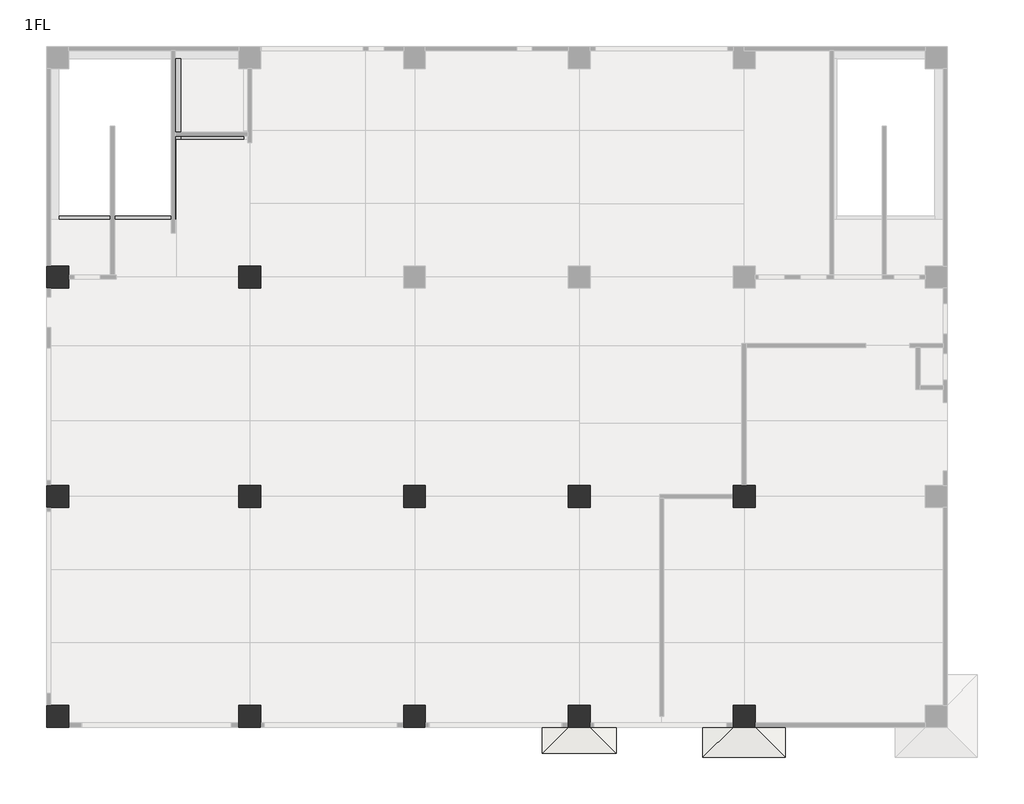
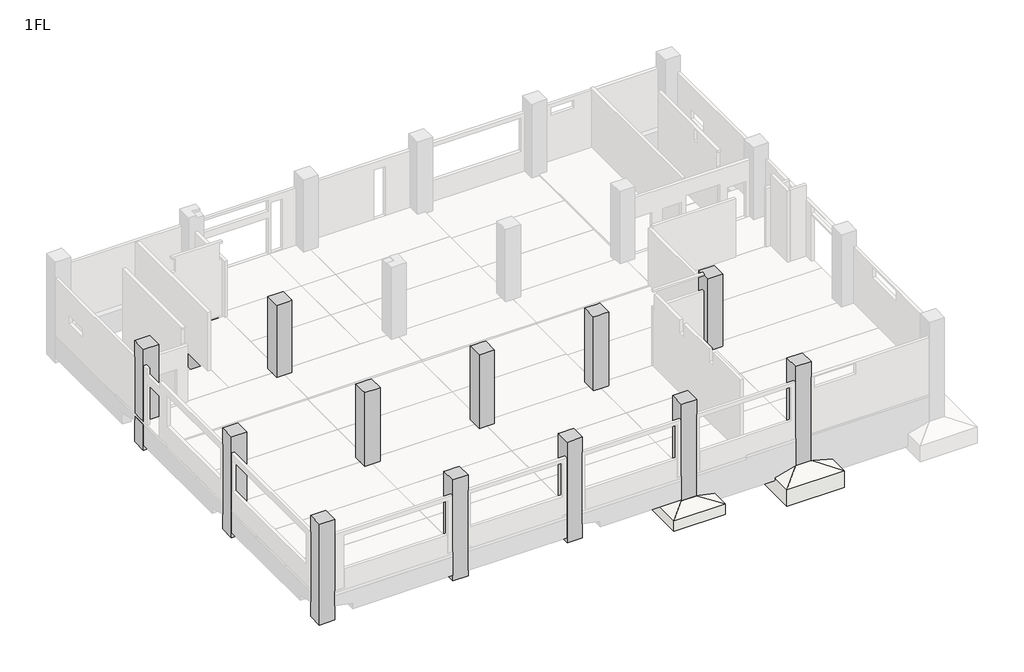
# One storey, part 3 of 4: 37 beams, 12 columns, 2 slabs.
"""IFC4 building model written with IfcOpenShell, lengths in millimetres."""

from ifc_helpers import new_model, si_unit, frame, origin, place, context, project, spatial, polyline, outline, extrude, faceted_brep, element, save

model = new_model("IFC4")

# Units and contexts
model_context = context("Model", 3, world=origin())
ifc_project = project(units=[si_unit("LENGTHUNIT", "METRE", prefix="MILLI")], contexts=[model_context])

# Site, building, storey
site = spatial("IfcSite", under=ifc_project)
building = spatial("IfcBuilding", under=site)
storey = spatial("IfcBuildingStorey", under=building, Name="1FL", Elevation=0.0)

# Beams
placement = place(None, origin())
element("IfcBeam", 1, ObjectType="RC_B : B1", at=placement, inside=storey, context=model_context, shape_type="SweptSolid", body=[
    extrude(outline(polyline([(50.0, 2485.0), (50.0, 2835.0), (6775.0, 2835.0), (6775.0, 2485.0), (50.0, 2485.0)])), frame((0.0, 0.0, -850.0), z_axis=(0.0, 0.0, 1.0), x_axis=(1.0, 0.0, 0.0)), (0.0, 0.0, 1.0), 600.0),
])
element("IfcBeam", 2, ObjectType="RC_B : B1", at=placement, inside=storey, context=model_context, shape_type="SweptSolid", body=[
    extrude(outline(polyline([(50.0, 5155.0), (50.0, 5505.0), (6775.0, 5505.0), (6775.0, 5155.0), (50.0, 5155.0)])), frame((0.0, 0.0, -850.0), z_axis=(0.0, 0.0, 1.0), x_axis=(1.0, 0.0, 0.0)), (0.0, 0.0, 1.0), 600.0),
])
element("IfcBeam", 3, ObjectType="RC_B : B1", at=placement, inside=storey, context=model_context, shape_type="SweptSolid", body=[
    extrude(outline(polyline([(7225.0, 2485.0), (7225.0, 2835.0), (12775.0, 2835.0), (12775.0, 2485.0), (7225.0, 2485.0)])), frame((0.0, 0.0, -850.0), z_axis=(0.0, 0.0, 1.0), x_axis=(1.0, 0.0, 0.0)), (0.0, 0.0, 1.0), 600.0),
])
element("IfcBeam", 4, ObjectType="RC_B : B1", at=placement, inside=storey, context=model_context, shape_type="SweptSolid", body=[
    extrude(outline(polyline([(7225.0, 5155.0), (7225.0, 5505.0), (12775.0, 5505.0), (12775.0, 5155.0), (7225.0, 5155.0)])), frame((0.0, 0.0, -850.0), z_axis=(0.0, 0.0, 1.0), x_axis=(1.0, 0.0, 0.0)), (0.0, 0.0, 1.0), 600.0),
])
element("IfcBeam", 5, ObjectType="RC_B : B1", at=placement, inside=storey, context=model_context, shape_type="SweptSolid", body=[
    extrude(outline(polyline([(13225.0, 2485.0), (13225.0, 2835.0), (18775.0, 2835.0), (18775.0, 2485.0), (13225.0, 2485.0)])), frame((0.0, 0.0, -850.0), z_axis=(0.0, 0.0, 1.0), x_axis=(1.0, 0.0, 0.0)), (0.0, 0.0, 1.0), 600.0),
])
element("IfcBeam", 6, ObjectType="RC_B : B1", at=placement, inside=storey, context=model_context, shape_type="SweptSolid", body=[
    extrude(outline(polyline([(13225.0, 5155.0), (13225.0, 5505.0), (18775.0, 5505.0), (18775.0, 5155.0), (13225.0, 5155.0)])), frame((0.0, 0.0, -850.0), z_axis=(0.0, 0.0, 1.0), x_axis=(1.0, 0.0, 0.0)), (0.0, 0.0, 1.0), 600.0),
])
element("IfcBeam", 7, ObjectType="RC_B : B1", at=placement, inside=storey, context=model_context, shape_type="SweptSolid", body=[
    extrude(outline(polyline([(13675.0, -850.0), (13325.0, -850.0), (13325.0, -250.0), (13496.0, -250.0), (13496.0, -160.0), (13675.0, -160.0), (13675.0, -850.0)])), frame((50.0, 0.0, 0.0), z_axis=(1.0, 0.0, 0.0), x_axis=(0.0, 1.0, 0.0)), (0.0, 0.0, 1.0), 6725.0),
])
element("IfcBeam", 8, ObjectType="RC_B : B1", at=placement, inside=storey, context=model_context, shape_type="SweptSolid", body=[
    extrude(outline(polyline([(13675.0, -850.0), (13325.0, -850.0), (13325.0, -250.0), (13496.0, -250.0), (13496.0, -160.0), (13675.0, -160.0), (13675.0, -850.0)])), frame((7225.0, 0.0, 0.0), z_axis=(1.0, 0.0, 0.0), x_axis=(0.0, 1.0, 0.0)), (0.0, 0.0, 1.0), 5550.0),
])
element("IfcBeam", 9, ObjectType="RC_B : B1", at=placement, inside=storey, context=model_context, shape_type="SweptSolid", body=[
    extrude(outline(polyline([(13675.0, -850.0), (13325.0, -850.0), (13325.0, -250.0), (13496.0, -250.0), (13496.0, -160.0), (13675.0, -160.0), (13675.0, -850.0)])), frame((13225.0, 0.0, 0.0), z_axis=(1.0, 0.0, 0.0), x_axis=(0.0, 1.0, 0.0)), (0.0, 0.0, 1.0), 5550.0),
])
element("IfcBeam", 10, ObjectType="RC_B : B1", at=placement, inside=storey, context=model_context, shape_type="SweptSolid", body=[
    extrude(outline(polyline([(50.0, 10575.0), (50.0, 10925.0), (6775.0, 10925.0), (6775.0, 10575.0), (50.0, 10575.0)])), frame((0.0, 0.0, -850.0), z_axis=(0.0, 0.0, 1.0), x_axis=(1.0, 0.0, 0.0)), (0.0, 0.0, 1.0), 600.0),
])
element("IfcBeam", 11, ObjectType="RC_B : B1", at=placement, inside=storey, context=model_context, shape_type="SweptSolid", body=[
    extrude(outline(polyline([(7225.0, 10575.0), (7225.0, 10925.0), (12775.0, 10925.0), (12775.0, 10575.0), (7225.0, 10575.0)])), frame((0.0, 0.0, -850.0), z_axis=(0.0, 0.0, 1.0), x_axis=(1.0, 0.0, 0.0)), (0.0, 0.0, 1.0), 600.0),
])
element("IfcBeam", 12, ObjectType="RC_B : B1", at=placement, inside=storey, context=model_context, shape_type="SweptSolid", body=[
    extrude(outline(polyline([(13225.0, 10575.0), (13225.0, 10925.0), (18775.0, 10925.0), (18775.0, 10575.0), (13225.0, 10575.0)])), frame((0.0, 0.0, -850.0), z_axis=(0.0, 0.0, 1.0), x_axis=(1.0, 0.0, 0.0)), (0.0, 0.0, 1.0), 600.0),
])
element("IfcBeam", 13, ObjectType="RC_B : B2", at=placement, inside=storey, context=model_context, shape_type="SweptSolid", body=[
    extrude(outline(polyline([(-850.0, 19225.0), (-850.0, 24775.0), (-160.0, 24775.0), (-160.0, 22075.0), (-250.0, 22075.0), (-250.0, 19225.0), (-850.0, 19225.0)])), frame((0.0, 2485.0, 0.0), z_axis=(0.0, 1.0, 0.0), x_axis=(0.0, 0.0, 1.0)), (0.0, 0.0, 1.0), 350.0),
])
element("IfcBeam", 14, ObjectType="RC_B : B2", at=placement, inside=storey, context=model_context, shape_type="SweptSolid", body=[
    extrude(outline(polyline([(-850.0, 19225.0), (-850.0, 24775.0), (-160.0, 24775.0), (-160.0, 22075.0), (-250.0, 22075.0), (-250.0, 19225.0), (-850.0, 19225.0)])), frame((0.0, 5155.0, 0.0), z_axis=(0.0, 1.0, 0.0), x_axis=(0.0, 0.0, 1.0)), (0.0, 0.0, 1.0), 350.0),
])
element("IfcBeam", 15, ObjectType="RC_B : B2", at=placement, inside=storey, context=model_context, shape_type="SweptSolid", body=[
    extrude(outline(polyline([(19225.0, 10575.0), (19225.0, 10925.0), (24775.0, 10925.0), (24775.0, 10575.0), (19225.0, 10575.0)])), frame((0.0, 0.0, -850.0), z_axis=(0.0, 0.0, 1.0), x_axis=(1.0, 0.0, 0.0)), (0.0, 0.0, 1.0), 600.0),
])
element("IfcBeam", 16, ObjectType="RC_B : B2", at=placement, inside=storey, context=model_context, shape_type="SweptSolid", body=[
    extrude(outline(polyline([(13675.0, -850.0), (13325.0, -850.0), (13325.0, -250.0), (13500.0, -250.0), (13500.0, -160.0), (13675.0, -160.0), (13675.0, -850.0)])), frame((19225.0, 0.0, 0.0), z_axis=(1.0, 0.0, 0.0), x_axis=(0.0, 1.0, 0.0)), (0.0, 0.0, 1.0), 5550.0),
])
element("IfcBeam", 17, ObjectType="RC_B : B2", at=placement, inside=storey, context=model_context, shape_type="SweptSolid", body=[
    extrude(outline(polyline([(25225.0, 13325.0), (25225.0, 13675.0), (31950.0, 13675.0), (31950.0, 13325.0), (25225.0, 13325.0)])), frame((0.0, 0.0, -850.0), z_axis=(0.0, 0.0, 1.0), x_axis=(1.0, 0.0, 0.0)), (0.0, 0.0, 1.0), 690.0),
])
element("IfcBeam", 18, ObjectType="RC_B : B3", at=placement, inside=storey, context=model_context, shape_type="SweptSolid", body=[
    extrude(outline(polyline([(18225.0, -100.0), (18225.0, -700.0), (17975.0, -700.0), (17975.0, -160.0), (18100.0, -160.0), (18100.0, -100.0), (18225.0, -100.0)])), frame((50.0, 0.0, 0.0), z_axis=(1.0, 0.0, 0.0), x_axis=(0.0, 1.0, 0.0)), (0.0, 0.0, 1.0), 4094.0),
])
element("IfcBeam", 19, ObjectType="RC_B : B3", at=placement, inside=storey, context=model_context, shape_type="Brep", body=[
    faceted_brep([(6775.0, 21125.0, -100.0), (6775.0, 21125.0, -700.0), (4494.0, 21125.0, -700.0), (4494.0, 21125.0, -100.0), (6775.0, 20875.0, -700.0), (4494.0, 20875.0, -700.0), (6775.0, 20875.0, -100.0), (4494.0, 20875.0, -100.0), (4494.0, 20875.0, -160.0), (6775.0, 21000.0, -100.0)], [[[0, 1, 2, 3]], [[1, 4, 5, 2]], [[4, 6, 7, 8, 5]], [[6, 9, 0, 3, 7]], [[1, 0, 9, 6, 4]], [[3, 2, 5, 8, 7]]]),
])
element("IfcBeam", 20, ObjectType="RC_B : B4", at=placement, inside=storey, context=model_context, shape_type="Brep", body=[
    faceted_brep([(4144.0, 16225.0, -850.0), (4144.0, 16225.0, -100.0), (4144.0, 17600.0, -100.0), (4144.0, 18100.0, -100.0), (4144.0, 18225.0, -100.0), (4144.0, 23950.0, -100.0), (4144.0, 23950.0, -850.0), (4144.0, 20875.0, -850.0), (4494.0, 16225.0, -850.0), (4494.0, 23950.0, -850.0), (4494.0, 20875.0, -850.0), (4494.0, 16225.0, -100.0), (4494.0, 23950.0, -100.0), (4494.0, 21125.0, -100.0), (4494.0, 20875.0, -100.0)], [[[0, 1, 2, 3, 4, 5, 6, 7]], [[8, 0, 7, 6, 9, 10]], [[11, 8, 10, 9, 12, 13, 14]], [[1, 11, 14, 13, 12, 5, 4, 3, 2]], [[1, 0, 8, 11]], [[6, 5, 12, 9]]]),
])
element("IfcBeam", 21, ObjectType="RC_B : B6", at=placement, inside=storey, context=model_context, shape_type="SweptSolid", body=[
    extrude(outline(polyline([(25225.0, 2485.0), (25225.0, 2835.0), (31950.0, 2835.0), (31950.0, 2485.0), (25225.0, 2485.0)])), frame((0.0, 0.0, -850.0), z_axis=(0.0, 0.0, 1.0), x_axis=(1.0, 0.0, 0.0)), (0.0, 0.0, 1.0), 690.0),
])
element("IfcBeam", 22, ObjectType="RC_B : B6", at=placement, inside=storey, context=model_context, shape_type="SweptSolid", body=[
    extrude(outline(polyline([(25225.0, 5155.0), (25225.0, 5505.0), (31950.0, 5505.0), (31950.0, 5155.0), (25225.0, 5155.0)])), frame((0.0, 0.0, -850.0), z_axis=(0.0, 0.0, 1.0), x_axis=(1.0, 0.0, 0.0)), (0.0, 0.0, 1.0), 690.0),
])
element("IfcBeam", 23, ObjectType="RC_B : B6", at=placement, inside=storey, context=model_context, shape_type="SweptSolid", body=[
    extrude(outline(polyline([(25225.0, 10575.0), (25225.0, 10925.0), (31950.0, 10925.0), (31950.0, 10575.0), (25225.0, 10575.0)])), frame((0.0, 0.0, -850.0), z_axis=(0.0, 0.0, 1.0), x_axis=(1.0, 0.0, 0.0)), (0.0, 0.0, 1.0), 690.0),
])
element("IfcBeam", 24, ObjectType="RC_B : FG12", at=placement, inside=storey, context=model_context, shape_type="Brep", body=[
    faceted_brep([(6775.0, 400.0, -250.0), (6775.0, 2485.0, -250.0), (6775.0, 2835.0, -250.0), (6775.0, 5155.0, -250.0), (6775.0, 5505.0, -250.0), (6775.0, 7600.0, -250.0), (6775.0, 7600.0, -1300.0), (6775.0, 1350.0, -1300.0), (6775.0, 1350.0, -1000.0), (6775.0, 400.0, -800.0), (7225.0, 7600.0, -1300.0), (7225.0, 1350.0, -1300.0), (7225.0, 7600.0, -250.0), (7225.0, 5505.0, -250.0), (7225.0, 5155.0, -250.0), (7225.0, 2835.0, -250.0), (7225.0, 2485.0, -250.0), (7225.0, 400.0, -250.0), (7225.0, 400.0, -800.0), (7225.0, 1350.0, -1000.0), (7000.0, 400.0, -250.0), (7000.0, 7600.0, -250.0)], [[[0, 1, 2, 3, 4, 5, 6, 7, 8, 9]], [[6, 10, 11, 7]], [[12, 13, 14, 15, 16, 17, 18, 19, 11, 10]], [[17, 20, 0, 9, 18]], [[5, 21, 12, 10, 6]], [[5, 4, 3, 2, 1, 0, 20, 17, 16, 15, 14, 13, 12, 21]], [[19, 8, 7, 11]], [[8, 19, 18, 9]]]),
])
element("IfcBeam", 25, ObjectType="RC_B : FG12", at=placement, inside=storey, context=model_context, shape_type="Brep", body=[
    faceted_brep([(6775.0, 8400.0, -250.0), (6775.0, 10575.0, -250.0), (6775.0, 10925.0, -250.0), (6775.0, 13325.0, -250.0), (6775.0, 13496.0, -250.0), (6775.0, 13496.0, -160.0), (6775.0, 13675.0, -160.0), (6775.0, 15600.0, -160.0), (6775.0, 15600.0, -1300.0), (6775.0, 9650.0, -1300.0), (6775.0, 9650.0, -700.0), (6775.0, 8400.0, -400.0), (7225.0, 15600.0, -1300.0), (7225.0, 9650.0, -1300.0), (7225.0, 13496.0, -250.0), (7225.0, 13325.0, -250.0), (7225.0, 10925.0, -250.0), (7225.0, 10575.0, -250.0), (7225.0, 8400.0, -250.0), (7225.0, 8400.0, -400.0), (7225.0, 9650.0, -700.0), (7225.0, 15600.0, -160.0), (7225.0, 13675.0, -160.0), (7225.0, 13496.0, -160.0), (7000.0, 8400.0, -250.0), (7000.0, 13496.0, -250.0)], [[[0, 1, 2, 3, 4, 5, 6, 7, 8, 9, 10, 11]], [[8, 12, 13, 9]], [[14, 15, 16, 17, 18, 19, 20, 13, 12, 21, 22, 23]], [[18, 24, 0, 11, 19]], [[7, 21, 12, 8]], [[4, 3, 2, 1, 0, 24, 18, 17, 16, 15, 14, 25]], [[4, 25, 14, 23, 5]], [[7, 6, 5, 23, 22, 21]], [[20, 10, 9, 13]], [[10, 20, 19, 11]]]),
])
element("IfcBeam", 26, ObjectType="RC_B : FG12", at=placement, inside=storey, context=model_context, shape_type="Brep", body=[
    faceted_brep([(12775.0, 400.0, -250.0), (12775.0, 2485.0, -250.0), (12775.0, 2835.0, -250.0), (12775.0, 5155.0, -250.0), (12775.0, 5505.0, -250.0), (12775.0, 7600.0, -250.0), (12775.0, 7600.0, -1300.0), (12775.0, 1350.0, -1300.0), (12775.0, 1350.0, -1000.0), (12775.0, 400.0, -800.0), (13225.0, 7600.0, -1300.0), (13225.0, 1350.0, -1300.0), (13225.0, 7600.0, -250.0), (13225.0, 5505.0, -250.0), (13225.0, 5155.0, -250.0), (13225.0, 2835.0, -250.0), (13225.0, 2485.0, -250.0), (13225.0, 400.0, -250.0), (13225.0, 400.0, -800.0), (13225.0, 1350.0, -1000.0), (13000.0, 400.0, -250.0), (13000.0, 7600.0, -250.0)], [[[0, 1, 2, 3, 4, 5, 6, 7, 8, 9]], [[6, 10, 11, 7]], [[12, 13, 14, 15, 16, 17, 18, 19, 11, 10]], [[17, 20, 0, 9, 18]], [[5, 21, 12, 10, 6]], [[5, 4, 3, 2, 1, 0, 20, 17, 16, 15, 14, 13, 12, 21]], [[19, 8, 7, 11]], [[8, 19, 18, 9]]]),
])
element("IfcBeam", 27, ObjectType="RC_B : FG12", at=placement, inside=storey, context=model_context, shape_type="Brep", body=[
    faceted_brep([(12775.0, 8400.0, -250.0), (12775.0, 10575.0, -250.0), (12775.0, 10925.0, -250.0), (12775.0, 13325.0, -250.0), (12775.0, 13496.0, -250.0), (12775.0, 13496.0, -160.0), (12775.0, 13675.0, -160.0), (12775.0, 15600.0, -160.0), (12775.0, 15600.0, -1300.0), (12775.0, 9650.0, -1300.0), (12775.0, 9650.0, -700.0), (12775.0, 8400.0, -400.0), (13225.0, 15600.0, -1300.0), (13225.0, 9650.0, -1300.0), (13225.0, 13496.0, -250.0), (13225.0, 13325.0, -250.0), (13225.0, 10925.0, -250.0), (13225.0, 10575.0, -250.0), (13225.0, 8400.0, -250.0), (13225.0, 8400.0, -400.0), (13225.0, 9650.0, -700.0), (13225.0, 15600.0, -160.0), (13225.0, 13675.0, -160.0), (13225.0, 13496.0, -160.0), (13000.0, 8400.0, -250.0), (13000.0, 13496.0, -250.0)], [[[0, 1, 2, 3, 4, 5, 6, 7, 8, 9, 10, 11]], [[8, 12, 13, 9]], [[14, 15, 16, 17, 18, 19, 20, 13, 12, 21, 22, 23]], [[18, 24, 0, 11, 19]], [[7, 21, 12, 8]], [[4, 3, 2, 1, 0, 24, 18, 17, 16, 15, 14, 25]], [[4, 25, 14, 23, 5]], [[7, 6, 5, 23, 22, 21]], [[20, 10, 9, 13]], [[10, 20, 19, 11]]]),
])
element("IfcBeam", 28, ObjectType="RC_B : FG12", at=placement, inside=storey, context=model_context, shape_type="Brep", body=[
    faceted_brep([(18775.0, 8400.0, -250.0), (18775.0, 10575.0, -250.0), (18775.0, 10925.0, -250.0), (18775.0, 13325.0, -250.0), (18775.0, 13496.0, -250.0), (18775.0, 13496.0, -160.0), (18775.0, 13675.0, -160.0), (18775.0, 15600.0, -160.0), (18775.0, 15600.0, -1300.0), (18775.0, 9650.0, -1300.0), (18775.0, 9650.0, -1250.0), (18775.0, 8400.0, -950.0), (19225.0, 15600.0, -1300.0), (19225.0, 9650.0, -1300.0), (19225.0, 13500.0, -250.0), (19225.0, 13325.0, -250.0), (19225.0, 10925.0, -250.0), (19225.0, 10575.0, -250.0), (19225.0, 8400.0, -250.0), (19225.0, 8400.0, -950.0), (19225.0, 9650.0, -1250.0), (19225.0, 15600.0, -160.0), (19225.0, 13675.0, -160.0), (19225.0, 13500.0, -160.0), (19000.0, 8400.0, -250.0), (19000.0, 15600.0, -160.0), (19000.0, 13496.0, -250.0), (19000.0, 13500.0, -250.0), (19000.0, 13496.0, -160.0), (19000.0, 13500.0, -160.0)], [[[0, 1, 2, 3, 4, 5, 6, 7, 8, 9, 10, 11]], [[8, 12, 13, 9]], [[14, 15, 16, 17, 18, 19, 20, 13, 12, 21, 22, 23]], [[18, 24, 0, 11, 19]], [[7, 25, 21, 12, 8]], [[26, 4, 3, 2, 1, 0, 24, 18, 17, 16, 15, 14, 27]], [[4, 26, 28, 5]], [[27, 14, 23, 29]], [[26, 27, 29, 28]], [[7, 6, 5, 28, 29, 23, 22, 21, 25]], [[20, 10, 9, 13]], [[10, 20, 19, 11]]]),
])
element("IfcBeam", 29, ObjectType="RC_B : FG13", at=placement, inside=storey, context=model_context, shape_type="Brep", body=[
    faceted_brep([(18775.0, 400.0, -250.0), (18775.0, 2485.0, -250.0), (18775.0, 2835.0, -250.0), (18775.0, 5155.0, -250.0), (18775.0, 5505.0, -250.0), (18775.0, 7600.0, -250.0), (18775.0, 7600.0, -1950.0), (18775.0, 1350.0, -1950.0), (18775.0, 1350.0, -1550.0), (18775.0, 400.0, -1350.0), (19000.0, 7600.0, -1950.0), (19000.0, 1350.0, -1950.0), (19225.0, 7600.0, -250.0), (19225.0, 5505.0, -250.0), (19225.0, 5155.0, -250.0), (19225.0, 2835.0, -250.0), (19225.0, 2485.0, -250.0), (19225.0, 400.0, -250.0), (19225.0, 400.0, -1350.0), (19225.0, 1350.0, -1550.0), (19225.0, 1350.0, -1750.0), (19225.0, 7600.0, -1750.0), (19000.0, 400.0, -250.0), (19000.0, 7600.0, -1750.0), (19000.0, 1350.0, -1750.0)], [[[0, 1, 2, 3, 4, 5, 6, 7, 8, 9]], [[6, 10, 11, 7]], [[12, 13, 14, 15, 16, 17, 18, 19, 20, 21]], [[17, 22, 0, 9, 18]], [[5, 12, 21, 23, 10, 6]], [[5, 4, 3, 2, 1, 0, 22, 17, 16, 15, 14, 13, 12]], [[23, 21, 20, 24]], [[10, 23, 24, 11]], [[19, 8, 7, 11, 24, 20]], [[8, 19, 18, 9]]]),
])
element("IfcBeam", 30, ObjectType="RC_B : FG14", at=placement, inside=storey, context=model_context, shape_type="Brep", body=[
    faceted_brep([(24775.0, 400.0, -160.0), (24775.0, 2485.0, -160.0), (24775.0, 2835.0, -160.0), (24775.0, 5155.0, -160.0), (24775.0, 5505.0, -160.0), (24775.0, 7600.0, -160.0), (24775.0, 7600.0, -2300.0), (24775.0, 1500.0, -2300.0), (24775.0, 1500.0, -1800.0), (24775.0, 400.0, -1500.0), (25225.0, 7600.0, -160.0), (25225.0, 5505.0, -160.0), (25225.0, 5155.0, -160.0), (25225.0, 2835.0, -160.0), (25225.0, 2485.0, -160.0), (25225.0, 400.0, -160.0), (25225.0, 400.0, -1500.0), (25225.0, 1500.0, -1800.0), (25225.0, 1500.0, -2300.0), (25225.0, 7600.0, -2300.0), (25000.0, 400.0, -160.0), (25000.0, 7600.0, -160.0)], [[[0, 1, 2, 3, 4, 5, 6, 7, 8, 9]], [[10, 11, 12, 13, 14, 15, 16, 17, 18, 19]], [[15, 20, 0, 9, 16]], [[5, 21, 10, 19, 6]], [[10, 21, 5, 4, 3, 2, 1, 0, 20, 15, 14, 13, 12, 11]], [[6, 19, 18, 7]], [[17, 8, 7, 18]], [[8, 17, 16, 9]]]),
])
element("IfcBeam", 31, ObjectType="RC_B : FG14", at=placement, inside=storey, context=model_context, shape_type="Brep", body=[
    faceted_brep([(24775.0, 15600.0, -2300.0), (24775.0, 9650.0, -2300.0), (24775.0, 9650.0, -1800.0), (24775.0, 8400.0, -1500.0), (24775.0, 8400.0, -250.0), (24775.0, 10575.0, -250.0), (24775.0, 10925.0, -250.0), (24775.0, 13325.0, -250.0), (24775.0, 13500.0, -250.0), (24775.0, 13500.0, -160.0), (24775.0, 13675.0, -160.0), (24775.0, 15600.0, -160.0), (25225.0, 15600.0, -160.0), (25225.0, 13675.0, -160.0), (25225.0, 13325.0, -160.0), (25225.0, 10925.0, -160.0), (25225.0, 10575.0, -160.0), (25225.0, 8400.0, -160.0), (25225.0, 8400.0, -1500.0), (25225.0, 9650.0, -1800.0), (25225.0, 9650.0, -2300.0), (25225.0, 15600.0, -2300.0), (25000.0, 8400.0, -160.0), (25000.0, 8400.0, -250.0), (25000.0, 15600.0, -160.0), (25000.0, 13500.0, -160.0), (25000.0, 13496.0, -160.0), (25000.0, 10748.0, -160.0), (25000.0, 13500.0, -250.0), (25000.0, 10667.0, -250.0)], [[[0, 1, 2, 3, 4, 5, 6, 7, 8, 9, 10, 11]], [[12, 13, 14, 15, 16, 17, 18, 19, 20, 21]], [[17, 22, 23, 4, 3, 18]], [[12, 21, 0, 11, 24]], [[25, 26, 27, 22, 17, 16, 15, 14, 13, 12, 24, 11, 10, 9]], [[0, 21, 20, 1]], [[19, 2, 1, 20]], [[2, 19, 18, 3]], [[28, 8, 7, 6, 5, 4, 23, 29]], [[28, 25, 9, 8]], [[28, 29, 23, 22, 27, 26, 25]]]),
])
element("IfcBeam", 32, ObjectType="RC_B : FG2", at=placement, inside=storey, context=model_context, shape_type="Brep", body=[
    faceted_brep([(6600.0, 8225.0, -1300.0), (400.0, 8225.0, -1300.0), (400.0, 8225.0, -250.0), (6600.0, 8225.0, -250.0), (400.0, 7775.0, -1300.0), (6600.0, 7775.0, -1300.0), (6600.0, 7775.0, -250.0), (400.0, 7775.0, -250.0), (400.0, 8000.0, -250.0), (6600.0, 8000.0, -250.0)], [[[0, 1, 2, 3]], [[4, 1, 0, 5]], [[6, 7, 4, 5]], [[7, 8, 2, 1, 4]], [[3, 9, 6, 5, 0]], [[7, 6, 9, 3, 2, 8]]]),
])
element("IfcBeam", 33, ObjectType="RC_B : FG2", at=placement, inside=storey, context=model_context, shape_type="Brep", body=[
    faceted_brep([(12600.0, 8225.0, -1300.0), (7400.0, 8225.0, -1300.0), (7400.0, 8225.0, -250.0), (12600.0, 8225.0, -250.0), (7400.0, 7775.0, -1300.0), (12600.0, 7775.0, -1300.0), (12600.0, 7775.0, -250.0), (7400.0, 7775.0, -250.0), (7400.0, 8000.0, -250.0), (12600.0, 8000.0, -250.0)], [[[0, 1, 2, 3]], [[4, 1, 0, 5]], [[6, 7, 4, 5]], [[7, 8, 2, 1, 4]], [[3, 9, 6, 5, 0]], [[7, 6, 9, 3, 2, 8]]]),
])
element("IfcBeam", 34, ObjectType="RC_B : FG2", at=placement, inside=storey, context=model_context, shape_type="Brep", body=[
    faceted_brep([(13400.0, 8225.0, -250.0), (18600.0, 8225.0, -250.0), (18600.0, 8225.0, -1300.0), (14650.0, 8225.0, -1300.0), (14650.0, 8225.0, -700.0), (13400.0, 8225.0, -400.0), (18600.0, 7775.0, -1300.0), (14650.0, 7775.0, -1300.0), (18600.0, 7775.0, -250.0), (13400.0, 7775.0, -250.0), (13400.0, 7775.0, -400.0), (14650.0, 7775.0, -700.0), (13400.0, 8000.0, -250.0), (18600.0, 8000.0, -250.0)], [[[0, 1, 2, 3, 4, 5]], [[2, 6, 7, 3]], [[8, 9, 10, 11, 7, 6]], [[9, 12, 0, 5, 10]], [[1, 13, 8, 6, 2]], [[9, 8, 13, 1, 0, 12]], [[11, 4, 3, 7]], [[4, 11, 10, 5]]]),
])
element("IfcBeam", 35, ObjectType="RC_B : FG2", at=placement, inside=storey, context=model_context, shape_type="Brep", body=[
    faceted_brep([(400.0, 16225.0, -160.0), (6600.0, 16225.0, -160.0), (6600.0, 16225.0, -1300.0), (1500.0, 16225.0, -1300.0), (1500.0, 16225.0, -700.0), (400.0, 16225.0, -400.0), (6600.0, 15775.0, -1300.0), (1500.0, 15775.0, -1300.0), (6600.0, 15775.0, -160.0), (400.0, 15775.0, -160.0), (400.0, 15775.0, -400.0), (1500.0, 15775.0, -700.0), (6600.0, 16000.0, -160.0)], [[[0, 1, 2, 3, 4, 5]], [[2, 6, 7, 3]], [[8, 9, 10, 11, 7, 6]], [[9, 0, 5, 10]], [[1, 12, 8, 6, 2]], [[9, 8, 12, 1, 0]], [[11, 4, 3, 7]], [[4, 11, 10, 5]]]),
])
element("IfcBeam", 36, ObjectType="RC_B : FG3", at=placement, inside=storey, context=model_context, shape_type="Brep", body=[
    faceted_brep([(19400.0, 8225.0, -250.0), (24600.0, 8225.0, -250.0), (24600.0, 8225.0, -1950.0), (20650.0, 8225.0, -1950.0), (20650.0, 8225.0, -1250.0), (19400.0, 8225.0, -950.0), (24600.0, 8000.0, -1950.0), (20650.0, 8000.0, -1950.0), (24600.0, 7775.0, -160.0), (22075.0, 7775.0, -160.0), (22075.0, 7775.0, -250.0), (19400.0, 7775.0, -250.0), (19400.0, 7775.0, -950.0), (20650.0, 7775.0, -1250.0), (20650.0, 7775.0, -1750.0), (24600.0, 7775.0, -1750.0), (19400.0, 8000.0, -250.0), (24600.0, 7925.0, -250.0), (24600.0, 7925.0, -160.0), (24600.0, 8000.0, -1750.0), (24600.0, 8075.0, -250.0), (24600.0, 8000.0, -250.0), (22075.0, 7925.0, -250.0), (22075.0, 7925.0, -160.0), (20650.0, 8000.0, -1750.0)], [[[0, 1, 2, 3, 4, 5]], [[2, 6, 7, 3]], [[8, 9, 10, 11, 12, 13, 14, 15]], [[11, 16, 0, 5, 12]], [[17, 18, 8, 15, 19, 6, 2, 1, 20, 21]], [[1, 0, 16, 11, 10, 22, 17, 21, 20]], [[18, 17, 22, 23]], [[22, 10, 9, 23]], [[19, 15, 14, 24]], [[6, 19, 24, 7]], [[9, 8, 18, 23]], [[13, 4, 3, 7, 24, 14]], [[4, 13, 12, 5]]]),
])
element("IfcBeam", 37, ObjectType="RC_B : FG4", at=placement, inside=storey, context=model_context, shape_type="Brep", body=[
    faceted_brep([(25400.0, 8225.0, -160.0), (31600.0, 8225.0, -160.0), (31600.0, 8225.0, -2300.0), (25400.0, 8225.0, -2300.0), (31600.0, 7775.0, -160.0), (25400.0, 7775.0, -160.0), (25400.0, 7775.0, -2300.0), (31600.0, 7775.0, -2300.0), (25400.0, 8000.0, -160.0), (31600.0, 8000.0, -160.0)], [[[0, 1, 2, 3]], [[4, 5, 6, 7]], [[5, 8, 0, 3, 6]], [[1, 9, 4, 7, 2]], [[5, 4, 9, 1, 0, 8]], [[7, 6, 3, 2]]]),
])

# Columns
element("IfcColumn", 38, ObjectType="RC_C_B : 1C1", at=placement, inside=storey, context=model_context, shape_type="Brep", body=[
    faceted_brep([(7400.0, 400.0, -1600.0), (7400.0, -400.0, -1600.0), (6600.0, -400.0, -1600.0), (6600.0, 400.0, -1600.0), (7400.0, 400.0, 4000.0), (7400.0, -400.0, 4000.0), (7400.0, -400.0, 3850.0), (7400.0, -400.0, 3150.0), (7400.0, -400.0, -100.0), (7400.0, -400.0, -250.0), (7400.0, -400.0, -1300.0), (7400.0, 400.0, -250.0), (7400.0, 400.0, -100.0), (7400.0, 400.0, 3850.0), (6600.0, -400.0, 4000.0), (6600.0, -400.0, 3850.0), (6600.0, -400.0, 3150.0), (6600.0, -400.0, 0.0), (6600.0, -400.0, -100.0), (6600.0, -400.0, -250.0), (6600.0, -400.0, -1300.0), (6600.0, 400.0, 4000.0), (6600.0, 400.0, 3850.0), (6600.0, 400.0, -100.0), (6600.0, 400.0, -250.0), (6775.0, 400.0, 4000.0), (7225.0, 400.0, 4000.0)], [[[0, 1, 2, 3]], [[4, 5, 6, 7, 8, 9, 10, 1, 0, 11, 12, 13]], [[5, 14, 15, 16, 17, 18, 19, 20, 2, 1, 10, 9, 8, 7, 6]], [[14, 21, 22, 23, 24, 3, 2, 20, 19, 18, 17, 16, 15]], [[21, 25, 26, 4, 13, 12, 11, 0, 3, 24, 23, 22]], [[4, 26, 25, 21, 14, 5]]]),
])
element("IfcColumn", 39, ObjectType="RC_C_B : 1C1", at=placement, inside=storey, context=model_context, shape_type="Brep", body=[
    faceted_brep([(13400.0, 400.0, -1600.0), (13400.0, -400.0, -1600.0), (12600.0, -400.0, -1600.0), (12600.0, 400.0, -1600.0), (13400.0, 400.0, 4000.0), (13400.0, -400.0, 4000.0), (13400.0, -400.0, 3850.0), (13400.0, -400.0, 3150.0), (13400.0, -400.0, -100.0), (13400.0, -400.0, -250.0), (13400.0, -400.0, -800.0), (13400.0, 400.0, -250.0), (13400.0, 400.0, -100.0), (13400.0, 400.0, 3850.0), (12600.0, -400.0, 4000.0), (12600.0, -400.0, 3850.0), (12600.0, -400.0, 3150.0), (12600.0, -400.0, 0.0), (12600.0, -400.0, -100.0), (12600.0, -400.0, -250.0), (12600.0, -400.0, -1300.0), (12600.0, 400.0, 4000.0), (12600.0, 400.0, 3850.0), (12600.0, 400.0, -100.0), (12600.0, 400.0, -250.0), (12775.0, 400.0, 4000.0), (13225.0, 400.0, 4000.0)], [[[0, 1, 2, 3]], [[4, 5, 6, 7, 8, 9, 10, 1, 0, 11, 12, 13]], [[5, 14, 15, 16, 17, 18, 19, 20, 2, 1, 10, 9, 8, 7, 6]], [[14, 21, 22, 23, 24, 3, 2, 20, 19, 18, 17, 16, 15]], [[21, 25, 26, 4, 13, 12, 11, 0, 3, 24, 23, 22]], [[4, 26, 25, 21, 14, 5]]]),
])
element("IfcColumn", 40, ObjectType="RC_C_B : 1C1", at=placement, inside=storey, context=model_context, shape_type="Brep", body=[
    faceted_brep([(19400.0, 400.0, -2150.0), (19400.0, -400.0, -2150.0), (18600.0, -400.0, -2150.0), (18600.0, 400.0, -2150.0), (19400.0, 400.0, -1950.0), (19400.0, 0.0, -1950.0), (19400.0, 0.0, -1750.0), (19400.0, 400.0, -1750.0), (19400.0, 400.0, -250.0), (19400.0, 400.0, -100.0), (19400.0, 400.0, 3850.0), (19400.0, 400.0, 4000.0), (19400.0, -400.0, 4000.0), (19400.0, -400.0, 3850.0), (19400.0, -400.0, 3150.0), (19400.0, -400.0, -100.0), (19400.0, -400.0, -250.0), (19400.0, -400.0, -1350.0), (18600.0, -400.0, 4000.0), (18600.0, -400.0, 3850.0), (18600.0, -400.0, 3150.0), (18600.0, -400.0, 0.0), (18600.0, -400.0, -100.0), (18600.0, -400.0, -250.0), (18600.0, -400.0, -1300.0), (18600.0, 400.0, 4000.0), (18600.0, 400.0, 3850.0), (18600.0, 400.0, -100.0), (18600.0, 400.0, -250.0), (18775.0, 400.0, 4000.0), (19225.0, 400.0, 4000.0), (19000.0, 400.0, -1750.0), (19000.0, 400.0, -1950.0), (19000.0, 0.0, -1950.0), (19000.0, 0.0, -1750.0)], [[[0, 1, 2, 3]], [[1, 0, 4, 5, 6, 7, 8, 9, 10, 11, 12, 13, 14, 15, 16, 17]], [[2, 1, 17, 16, 15, 14, 13, 12, 18, 19, 20, 21, 22, 23, 24]], [[3, 2, 24, 23, 22, 21, 20, 19, 18, 25, 26, 27, 28]], [[0, 3, 28, 27, 26, 25, 29, 30, 11, 10, 9, 8, 7, 31, 32, 4]], [[12, 11, 30, 29, 25, 18]], [[32, 33, 5, 4]], [[6, 34, 31, 7]], [[33, 34, 6, 5]], [[34, 33, 32, 31]]]),
])
element("IfcColumn", 41, ObjectType="RC_C_B : 1C1", at=placement, inside=storey, context=model_context, shape_type="Brep", body=[
    faceted_brep([(25400.0, 400.0, -2700.0), (25400.0, -400.0, -2700.0), (24600.0, -400.0, -2700.0), (24600.0, 400.0, -2700.0), (25400.0, 400.0, -2500.0), (25400.0, 0.0, -2500.0), (25400.0, 0.0, -2300.0), (25400.0, 50.0, -2300.0), (25400.0, 400.0, -2300.0), (25400.0, 400.0, -160.0), (25400.0, 400.0, -10.0), (25400.0, 400.0, 3940.0), (25400.0, 400.0, 4000.0), (25400.0, -400.0, 4000.0), (25400.0, -400.0, 3940.0), (25400.0, -400.0, 3150.0), (25400.0, -400.0, -10.0), (25400.0, -400.0, -100.0), (25400.0, -400.0, -2500.0), (24600.0, -400.0, 4000.0), (24600.0, -400.0, 3940.0), (24600.0, -400.0, 3150.0), (24600.0, -400.0, 0.0), (24600.0, -400.0, -10.0), (24600.0, -400.0, -160.0), (24600.0, -400.0, -1950.0), (24600.0, 400.0, 4000.0), (24600.0, 400.0, 3940.0), (24600.0, 400.0, -10.0), (24600.0, 400.0, -160.0), (24600.0, 400.0, -1750.0), (24600.0, 50.0, -1750.0), (24600.0, 0.0, -1750.0), (24600.0, 0.0, -1950.0), (24600.0, 400.0, -1950.0), (25000.0, 400.0, -1950.0), (25000.0, 400.0, -1750.0), (24775.0, 400.0, -2300.0), (24775.0, 400.0, -2500.0), (25000.0, 0.0, -1950.0), (24775.0, 0.0, -1950.0), (25000.0, 0.0, -1750.0), (24775.0, 0.0, -1750.0), (24775.0, 0.0, -2500.0), (24775.0, 0.0, -2300.0)], [[[0, 1, 2, 3]], [[1, 0, 4, 5, 6, 7, 8, 9, 10, 11, 12, 13, 14, 15, 16, 17, 18]], [[2, 1, 18, 17, 16, 15, 14, 13, 19, 20, 21, 22, 23, 24, 25]], [[3, 2, 25, 24, 23, 22, 21, 20, 19, 26, 27, 28, 29, 30, 31, 32, 33, 34]], [[0, 3, 34, 35, 36, 30, 29, 28, 27, 26, 12, 11, 10, 9, 8, 37, 38, 4]], [[13, 12, 26, 19]], [[39, 35, 34, 33, 40]], [[41, 42, 32, 31, 30, 36]], [[41, 39, 40, 33, 32, 42]], [[39, 41, 36, 35]], [[38, 43, 5, 4]], [[6, 44, 37, 8, 7]], [[43, 44, 6, 5]], [[44, 43, 38, 37]]]),
])
element("IfcColumn", 42, ObjectType="RC_C_B : 1C1", at=placement, inside=storey, context=model_context, shape_type="Brep", body=[
    faceted_brep([(400.0, 8400.0, -1600.0), (400.0, 7600.0, -1600.0), (-400.0, 7600.0, -1600.0), (-400.0, 8400.0, -1600.0), (400.0, 8400.0, 4000.0), (400.0, 8175.0, 4000.0), (400.0, 7825.0, 4000.0), (400.0, 7600.0, 4000.0), (400.0, 7600.0, 3850.0), (400.0, 7600.0, -100.0), (400.0, 7600.0, -250.0), (400.0, 8400.0, -250.0), (400.0, 8400.0, -100.0), (400.0, 8400.0, 3850.0), (-400.0, 7600.0, 4000.0), (-400.0, 7600.0, 3850.0), (-400.0, 7600.0, 3100.0), (-400.0, 7600.0, -100.0), (-400.0, 7600.0, -250.0), (-400.0, 7600.0, -1300.0), (-400.0, 8400.0, 4000.0), (-400.0, 8400.0, 3850.0), (-400.0, 8400.0, 3100.0), (-400.0, 8400.0, -100.0), (-400.0, 8400.0, -250.0), (-400.0, 8400.0, -800.0)], [[[0, 1, 2, 3]], [[4, 5, 6, 7, 8, 9, 10, 1, 0, 11, 12, 13]], [[7, 14, 15, 16, 17, 18, 19, 2, 1, 10, 9, 8]], [[14, 20, 21, 22, 23, 24, 25, 3, 2, 19, 18, 17, 16, 15]], [[20, 4, 13, 12, 11, 0, 3, 25, 24, 23, 22, 21]], [[4, 20, 14, 7, 6, 5]]]),
])
element("IfcColumn", 43, ObjectType="RC_C_B : 1C1", at=placement, inside=storey, context=model_context, shape_type="Brep", body=[
    faceted_brep([(7400.0, 8400.0, -1600.0), (7400.0, 7600.0, -1600.0), (6600.0, 7600.0, -1600.0), (6600.0, 8400.0, -1600.0), (7400.0, 8400.0, 4000.0), (7400.0, 8175.0, 4000.0), (7400.0, 7825.0, 4000.0), (7400.0, 7600.0, 4000.0), (7400.0, 7600.0, 3850.0), (7400.0, 7600.0, -100.0), (7400.0, 7600.0, -250.0), (7400.0, 8400.0, -250.0), (7400.0, 8400.0, -100.0), (7400.0, 8400.0, 3850.0), (7225.0, 7600.0, 4000.0), (6775.0, 7600.0, 4000.0), (6600.0, 7600.0, 4000.0), (6600.0, 7600.0, 3850.0), (6600.0, 7600.0, -100.0), (6600.0, 7600.0, -250.0), (6600.0, 7825.0, 4000.0), (6600.0, 8175.0, 4000.0), (6600.0, 8400.0, 4000.0), (6600.0, 8400.0, 3850.0), (6600.0, 8400.0, -100.0), (6600.0, 8400.0, -250.0), (6775.0, 8400.0, 4000.0), (7225.0, 8400.0, 4000.0)], [[[0, 1, 2, 3]], [[4, 5, 6, 7, 8, 9, 10, 1, 0, 11, 12, 13]], [[7, 14, 15, 16, 17, 18, 19, 2, 1, 10, 9, 8]], [[16, 20, 21, 22, 23, 24, 25, 3, 2, 19, 18, 17]], [[22, 26, 27, 4, 13, 12, 11, 0, 3, 25, 24, 23]], [[4, 27, 26, 22, 21, 20, 16, 15, 14, 7, 6, 5]]]),
])
element("IfcColumn", 44, ObjectType="RC_C_B : 1C1", at=placement, inside=storey, context=model_context, shape_type="Brep", body=[
    faceted_brep([(13400.0, 8400.0, -1600.0), (13400.0, 7600.0, -1600.0), (12600.0, 7600.0, -1600.0), (12600.0, 8400.0, -1600.0), (13400.0, 8400.0, 4000.0), (13400.0, 8175.0, 4000.0), (13400.0, 7825.0, 4000.0), (13400.0, 7600.0, 4000.0), (13400.0, 7600.0, 3850.0), (13400.0, 7600.0, -100.0), (13400.0, 7600.0, -250.0), (13400.0, 8400.0, -250.0), (13400.0, 8400.0, -100.0), (13400.0, 8400.0, 3850.0), (13225.0, 7600.0, 4000.0), (12775.0, 7600.0, 4000.0), (12600.0, 7600.0, 4000.0), (12600.0, 7600.0, 3850.0), (12600.0, 7600.0, -100.0), (12600.0, 7600.0, -250.0), (12600.0, 7825.0, 4000.0), (12600.0, 8175.0, 4000.0), (12600.0, 8400.0, 4000.0), (12600.0, 8400.0, 3850.0), (12600.0, 8400.0, -100.0), (12600.0, 8400.0, -250.0), (12775.0, 8400.0, 4000.0), (13225.0, 8400.0, 4000.0)], [[[0, 1, 2, 3]], [[4, 5, 6, 7, 8, 9, 10, 1, 0, 11, 12, 13]], [[7, 14, 15, 16, 17, 18, 19, 2, 1, 10, 9, 8]], [[16, 20, 21, 22, 23, 24, 25, 3, 2, 19, 18, 17]], [[22, 26, 27, 4, 13, 12, 11, 0, 3, 25, 24, 23]], [[4, 27, 26, 22, 21, 20, 16, 15, 14, 7, 6, 5]]]),
])
element("IfcColumn", 45, ObjectType="RC_C_B : 1C1", at=placement, inside=storey, context=model_context, shape_type="Brep", body=[
    faceted_brep([(19400.0, 8400.0, -2150.0), (19400.0, 7600.0, -2150.0), (18600.0, 7600.0, -2150.0), (18600.0, 8400.0, -2150.0), (19400.0, 8400.0, -250.0), (19400.0, 8400.0, -100.0), (19400.0, 8400.0, 3850.0), (19400.0, 8400.0, 4000.0), (19400.0, 8175.0, 4000.0), (19400.0, 7825.0, 4000.0), (19400.0, 7600.0, 4000.0), (19400.0, 7600.0, 3850.0), (19400.0, 7600.0, -100.0), (19400.0, 7600.0, -250.0), (19400.0, 7600.0, -1750.0), (19400.0, 8000.0, -1750.0), (19400.0, 8000.0, -1950.0), (19400.0, 7600.0, -1950.0), (19000.0, 7600.0, -1950.0), (19000.0, 7600.0, -1750.0), (19225.0, 7600.0, -1750.0), (19225.0, 7600.0, 4000.0), (18775.0, 7600.0, 4000.0), (18600.0, 7600.0, 4000.0), (18600.0, 7600.0, 3850.0), (18600.0, 7600.0, -100.0), (18600.0, 7600.0, -250.0), (18600.0, 7825.0, 4000.0), (18600.0, 8175.0, 4000.0), (18600.0, 8400.0, 4000.0), (18600.0, 8400.0, 3850.0), (18600.0, 8400.0, -100.0), (18600.0, 8400.0, -250.0), (18775.0, 8400.0, 4000.0), (19225.0, 8400.0, 4000.0), (19000.0, 8000.0, -1950.0), (19000.0, 8000.0, -1750.0)], [[[0, 1, 2, 3]], [[1, 0, 4, 5, 6, 7, 8, 9, 10, 11, 12, 13, 14, 15, 16, 17]], [[2, 1, 17, 18, 19, 20, 14, 13, 12, 11, 10, 21, 22, 23, 24, 25, 26]], [[3, 2, 26, 25, 24, 23, 27, 28, 29, 30, 31, 32]], [[0, 3, 32, 31, 30, 29, 33, 34, 7, 6, 5, 4]], [[10, 9, 8, 7, 34, 33, 29, 28, 27, 23, 22, 21]], [[16, 35, 18, 17]], [[19, 36, 15, 14, 20]], [[35, 36, 19, 18]], [[36, 35, 16, 15]]]),
])
element("IfcColumn", 46, ObjectType="RC_C_B : 1C1", at=placement, inside=storey, context=model_context, shape_type="Brep", body=[
    faceted_brep([(25400.0, 8400.0, -2700.0), (25400.0, 7600.0, -2700.0), (24600.0, 7600.0, -2700.0), (24600.0, 8400.0, -2700.0), (25400.0, 8400.0, 4000.0), (25400.0, 7600.0, 4000.0), (25400.0, 7600.0, 3940.0), (25400.0, 7600.0, -10.0), (25400.0, 7600.0, -160.0), (25400.0, 7600.0, -2300.0), (25400.0, 7775.0, -2300.0), (25400.0, 8225.0, -2300.0), (25400.0, 8400.0, -2300.0), (25400.0, 8400.0, -160.0), (25400.0, 8400.0, -10.0), (25400.0, 8400.0, 3940.0), (25400.0, 7600.0, -2500.0), (24775.0, 7600.0, -2500.0), (24775.0, 7600.0, -2300.0), (25225.0, 7600.0, -2300.0), (24600.0, 7600.0, 4000.0), (24600.0, 7600.0, 3940.0), (24600.0, 7600.0, -10.0), (24600.0, 7600.0, -160.0), (24600.0, 7600.0, -1750.0), (25000.0, 7600.0, -1750.0), (25000.0, 7600.0, -1950.0), (24600.0, 7600.0, -1950.0), (24600.0, 8000.0, -1950.0), (24600.0, 8000.0, -1750.0), (24600.0, 7775.0, -1750.0), (24600.0, 8400.0, 4000.0), (24600.0, 8400.0, 3940.0), (24600.0, 8400.0, -100.0), (24600.0, 8000.0, -100.0), (24600.0, 8000.0, -160.0), (24600.0, 8000.0, -250.0), (24600.0, 8225.0, -250.0), (24600.0, 8400.0, -250.0), (24775.0, 8400.0, -250.0), (25000.0, 8400.0, -250.0), (25000.0, 8400.0, -160.0), (25000.0, 8400.0, -100.0), (24775.0, 8400.0, -2300.0), (24775.0, 8400.0, -2500.0), (25400.0, 8400.0, -2500.0), (25000.0, 8000.0, -1950.0), (24775.0, 8000.0, -1950.0), (24775.0, 8000.0, -1750.0), (25000.0, 8000.0, -1750.0), (24775.0, 8000.0, -2500.0), (24775.0, 8000.0, -2300.0), (25000.0, 8000.0, -250.0), (25000.0, 8000.0, -100.0)], [[[0, 1, 2, 3]], [[4, 5, 6, 7, 8, 9, 10, 11, 12, 13, 14, 15]], [[2, 1, 16, 17, 18, 19, 9, 8, 7, 6, 5, 20, 21, 22, 23, 24, 25, 26, 27]], [[3, 2, 27, 28, 29, 30, 24, 23, 22, 21, 20, 31, 32, 33, 34, 35, 36, 37, 38]], [[0, 3, 38, 39, 40, 41, 42, 33, 32, 31, 4, 15, 14, 13, 12, 43, 44, 45]], [[5, 4, 31, 20]], [[26, 46, 47, 28, 27]], [[29, 48, 49, 25, 24, 30]], [[46, 49, 48, 29, 28, 47]], [[49, 46, 26, 25]], [[17, 16, 45, 44, 50]], [[9, 19, 18, 51, 43, 12, 11, 10]], [[18, 17, 50, 44, 43, 51]], [[1, 0, 45, 16]], [[52, 40, 39, 38, 37, 36]], [[53, 34, 33, 42]], [[53, 52, 36, 35, 34]], [[52, 53, 42, 41, 40]]]),
])
element("IfcColumn", 47, ObjectType="RC_C_B : 1C1", at=placement, inside=storey, context=model_context, shape_type="Brep", body=[
    faceted_brep([(400.0, 16400.0, -1600.0), (400.0, 15600.0, -1600.0), (-400.0, 15600.0, -1600.0), (-400.0, 16400.0, -1600.0), (400.0, 16400.0, -160.0), (50.0, 16400.0, -160.0), (-400.0, 16400.0, -160.0), (-400.0, 16000.0, -160.0), (-400.0, 15600.0, -160.0), (50.0, 15600.0, -160.0), (400.0, 15600.0, -160.0), (400.0, 15775.0, -160.0), (400.0, 16225.0, -160.0), (-400.0, 15600.0, -1300.0), (-400.0, 16400.0, -400.0)], [[[0, 1, 2, 3]], [[4, 5, 6, 7, 8, 9, 10, 11, 12]], [[2, 1, 10, 9, 8, 13]], [[1, 0, 4, 12, 11, 10]], [[0, 3, 14, 6, 5, 4]], [[3, 2, 13, 8, 7, 6, 14]]]),
    faceted_brep([(400.0, 16400.0, 4000.0), (400.0, 16000.0, 4000.0), (400.0, 15600.0, 4000.0), (400.0, 15600.0, 3940.0), (400.0, 15600.0, -10.0), (400.0, 15925.0, -10.0), (400.0, 16075.0, -10.0), (400.0, 16400.0, -10.0), (400.0, 16400.0, 3940.0), (-400.0, 15600.0, 4000.0), (-400.0, 15600.0, 3940.0), (-400.0, 15600.0, 3100.0), (-400.0, 15600.0, -10.0), (-250.0, 15600.0, -10.0), (-400.0, 16000.0, 4000.0), (-400.0, 16400.0, 4000.0), (-400.0, 16400.0, 3940.0), (-400.0, 16400.0, 3100.0), (-400.0, 16400.0, -10.0), (-400.0, 16000.0, -10.0), (-250.0, 16400.0, -10.0)], [[[0, 1, 2, 3, 4, 5, 6, 7, 8]], [[2, 9, 10, 11, 12, 13, 4, 3]], [[9, 14, 15, 16, 17, 18, 19, 12, 11, 10]], [[15, 0, 8, 7, 20, 18, 17, 16]], [[2, 1, 0, 15, 14, 9]], [[4, 13, 12, 19, 18, 20, 7, 6, 5]]]),
])
element("IfcColumn", 48, ObjectType="RC_C_B : 1C1", at=placement, inside=storey, context=model_context, shape_type="Brep", body=[
    faceted_brep([(7400.0, 16400.0, -2150.0), (7400.0, 15600.0, -2150.0), (6600.0, 15600.0, -2150.0), (6600.0, 16400.0, -2150.0), (7400.0, 16400.0, -1950.0), (7400.0, 16000.0, -1950.0), (7400.0, 16000.0, -1750.0), (7400.0, 16225.0, -1750.0), (7400.0, 16400.0, -1750.0), (7400.0, 16400.0, -160.0), (7400.0, 16400.0, -10.0), (7400.0, 16400.0, 3850.0), (7400.0, 16400.0, 4000.0), (7400.0, 16000.0, 4000.0), (7400.0, 15600.0, 4000.0), (7400.0, 15600.0, 3940.0), (7400.0, 15600.0, -10.0), (7400.0, 15600.0, -160.0), (7225.0, 15600.0, 4000.0), (7000.0, 15600.0, 4000.0), (6600.0, 15600.0, 4000.0), (6600.0, 15600.0, 3940.0), (6600.0, 15600.0, -10.0), (6600.0, 15600.0, -160.0), (6600.0, 16400.0, 4000.0), (6600.0, 16400.0, 3940.0), (6600.0, 16400.0, -10.0), (6600.0, 16400.0, -160.0), (7000.0, 16400.0, 4000.0), (7000.0, 16400.0, -1750.0), (7000.0, 16400.0, -1950.0), (7000.0, 16000.0, -1950.0), (7000.0, 16000.0, -1750.0)], [[[0, 1, 2, 3]], [[1, 0, 4, 5, 6, 7, 8, 9, 10, 11, 12, 13, 14, 15, 16, 17]], [[2, 1, 17, 16, 15, 14, 18, 19, 20, 21, 22, 23]], [[3, 2, 23, 22, 21, 20, 24, 25, 26, 27]], [[0, 3, 27, 26, 25, 24, 28, 12, 11, 10, 9, 8, 29, 30, 4]], [[14, 13, 12, 28, 24, 20, 19, 18]], [[30, 31, 5, 4]], [[6, 32, 29, 8, 7]], [[31, 32, 6, 5]], [[32, 31, 30, 29]]]),
])
element("IfcColumn", 49, ObjectType="RC_C_B : 1C2", at=placement, inside=storey, context=model_context, shape_type="Brep", body=[
    faceted_brep([(400.0, 400.0, -1600.0), (400.0, -400.0, -1600.0), (-400.0, -400.0, -1600.0), (-400.0, 400.0, -1600.0), (400.0, 400.0, 4000.0), (400.0, -400.0, 4000.0), (400.0, -400.0, 3850.0), (400.0, -400.0, 3150.0), (400.0, -400.0, 0.0), (400.0, -400.0, -100.0), (400.0, -400.0, -250.0), (400.0, -400.0, -800.0), (400.0, 400.0, -250.0), (400.0, 400.0, -100.0), (400.0, 400.0, 3850.0), (-400.0, -400.0, 4000.0), (-400.0, 400.0, 4000.0), (-400.0, 400.0, 3850.0), (-400.0, 400.0, 3100.0), (-400.0, 400.0, -100.0), (-400.0, 400.0, -250.0), (-400.0, 400.0, -800.0)], [[[0, 1, 2, 3]], [[4, 5, 6, 7, 8, 9, 10, 11, 1, 0, 12, 13, 14]], [[5, 15, 2, 1, 11, 10, 9, 8, 7, 6]], [[15, 16, 17, 18, 19, 20, 21, 3, 2]], [[16, 4, 14, 13, 12, 0, 3, 21, 20, 19, 18, 17]], [[4, 16, 15, 5]]]),
])

# Slabs
element("IfcSlab", 50, ObjectType="RC_F_Rec_taper : F2_t", at=placement, inside=storey, context=model_context, shape_type="Brep", body=[
    faceted_brep([(26500.0, 1500.0, -2700.0), (26500.0, -1500.0, -2700.0), (23500.0, -1500.0, -2700.0), (23500.0, 1500.0, -2700.0), (23500.0, 1500.0, -1800.0), (24775.0, 1500.0, -1800.0), (25225.0, 1500.0, -1800.0), (26500.0, 1500.0, -1800.0), (26500.0, -1500.0, -1800.0), (25400.0, 400.0, -1500.0), (24600.0, 400.0, -1500.0), (24600.0, -400.0, -1500.0), (25400.0, -400.0, -1500.0), (23500.0, -1500.0, -1800.0)], [[[0, 1, 2, 3]], [[0, 3, 4, 5, 6, 7]], [[1, 0, 7, 8]], [[9, 10, 11, 12]], [[3, 2, 13, 4]], [[2, 1, 8, 13]], [[10, 9, 7, 6, 5, 4]], [[11, 10, 4, 13]], [[12, 11, 13, 8]], [[9, 12, 8, 7]]]),
])
element("IfcSlab", 51, ObjectType="RC_F_Rec_taper : F3_t", at=placement, inside=storey, context=model_context, shape_type="Brep", body=[
    faceted_brep([(20350.0, 1350.0, -2150.0), (20350.0, -1350.0, -2150.0), (17650.0, -1350.0, -2150.0), (17650.0, 1350.0, -2150.0), (17650.0, 1350.0, -1550.0), (18775.0, 1350.0, -1550.0), (19225.0, 1350.0, -1550.0), (20350.0, 1350.0, -1550.0), (20350.0, 50.0, -1550.0), (20350.0, -400.0, -1550.0), (20350.0, -1350.0, -1550.0), (19400.0, 400.0, -1350.0), (18600.0, 400.0, -1350.0), (18600.0, -400.0, -1350.0), (19400.0, -400.0, -1350.0), (17650.0, -1350.0, -1550.0)], [[[0, 1, 2, 3]], [[0, 3, 4, 5, 6, 7]], [[1, 0, 7, 8, 9, 10]], [[11, 12, 13, 14]], [[3, 2, 15, 4]], [[2, 1, 10, 15]], [[12, 11, 7, 6, 5, 4]], [[13, 12, 4, 15]], [[14, 13, 15, 10]], [[11, 14, 10, 9, 8, 7]]]),
])

save(model, "model.ifc")
